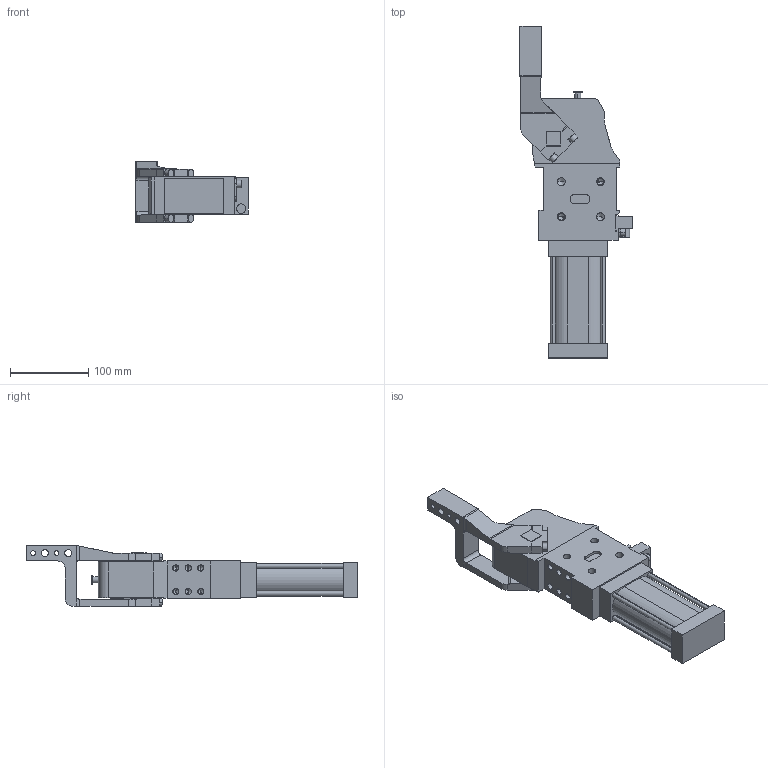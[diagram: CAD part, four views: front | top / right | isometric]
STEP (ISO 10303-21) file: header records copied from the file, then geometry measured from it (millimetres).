
FILE_DESCRIPTION (( 'STEP AP214' ), '1' );
FILE_NAME ('cpl50h1si1g_107.STEP', '2023-01-26T08:46:33', ( '' ), ( '' ), 'SwSTEP 2.0', 'SolidWorks 2022', '' );
FILE_SCHEMA (( 'AUTOMOTIVE_DESIGN' ));
Length unit declared in the file: millimetre
Products named in the file (4): meccanica_cpl_50; leva_dx_offset_15_cpl50; blocchetto_VEP_0; cpl50h1si1g_107
Assembly tree (3 placements, depth 2):
  cpl50h1si1g_107
    meccanica_cpl_50
    blocchetto_VEP_0
    leva_dx_offset_15_cpl50
Bounding box: 143.5 x 424.5 x 78.5 mm (x, y, z)
Volume: 1387864 mm3; surface area: 163615.7 mm2
Topology: 3 solids, 3 shells, 399 faces, 1029 edges, 639 vertices
Faces by surface type: plane 193, cylinder 156, cone 50
Entity records: 13413 total; most frequent: CARTESIAN_POINT 2115, DIRECTION 2109, ORIENTED_EDGE 1966, EDGE_CURVE 983, AXIS2_PLACEMENT_3D 731, LINE 647, VECTOR 647, VERTEX_POINT 639
